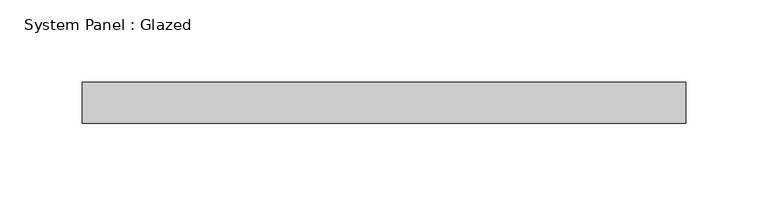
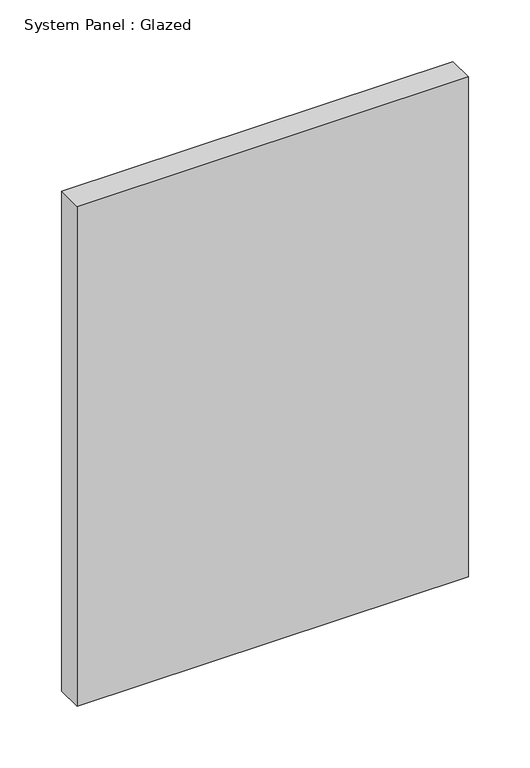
"""IFC4 building model written with IfcOpenShell, lengths in millimetres: plate geometry, System Panel : Glazed."""

from ifc_helpers import new_model, si_unit, origin, origin_with_axes, place, context, project, spatial, polyline, outline, extrude, source, transform, mapped, element, save


def system_panel_glazed_193d12b3(model_context):
    return source(origin(), model_context, "Body", "SweptSolid", [
        extrude(outline(polyline([(183.5786438, -12.5), (-183.5786438, -12.5), (-183.5786438, 12.5), (183.5786438, 12.5), (183.5786438, -12.5)])), origin_with_axes(), (0.0, 0.0, 1.0), 495.0),
    ])


if __name__ == "__main__":
    model = new_model("IFC4")
    model_context = context("Model", 3, world=origin())
    ifc_project = project(units=[si_unit("LENGTHUNIT", "METRE", prefix="MILLI")], contexts=[model_context])
    site = spatial("IfcSite", under=ifc_project)
    building = spatial("IfcBuilding", under=site)
    placement = place(None, origin())
    system_panel_glazed_shape = system_panel_glazed_193d12b3(model_context)
    element("IfcPlate", 1, ObjectType="System Panel : Glazed", at=placement, inside=building, context=model_context, shape_type="MappedRepresentation", body=[
        mapped(system_panel_glazed_shape, transform((0.0, 0.0, 0.0), x_axis=(1.0, 0.0, 0.0), y_axis=(0.0, 1.0, 0.0), z_axis=(0.0, 0.0, 1.0))),
    ])
    save(model, "model.ifc")
